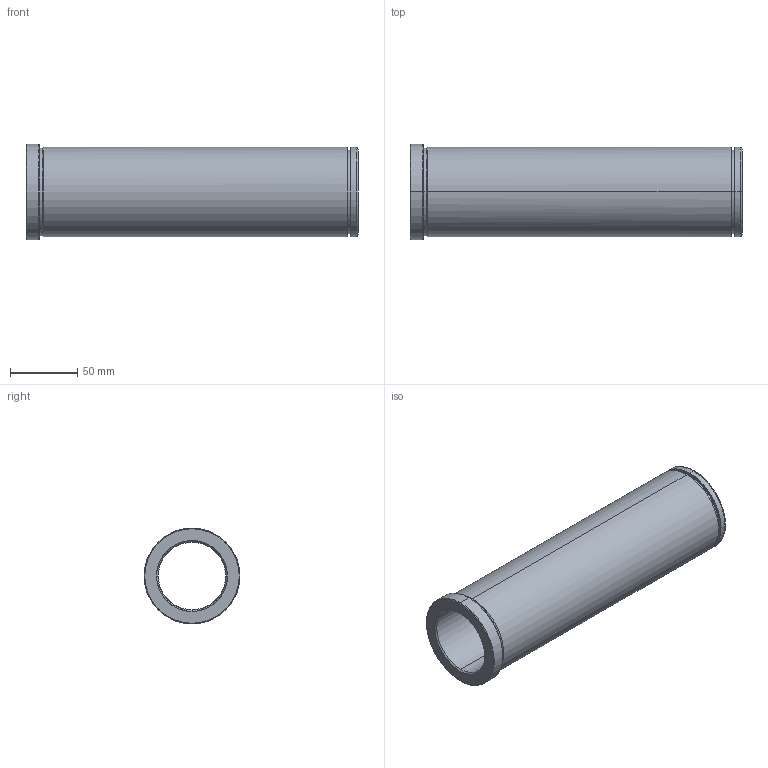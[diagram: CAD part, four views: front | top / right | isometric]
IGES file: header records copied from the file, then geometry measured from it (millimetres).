
Start section: START RECORD GO HERE.
Global section: file name: 553-50X246.igs; native system: DASSAULT SYSTEMES CATIA V5 R20 - www.3ds.com; preprocessor: CATIA Version 5 Release 20 ; author: Utente; organization: NB04-ASUS; date: 20210608.201115; units: millimetre
Bounding box: 246 x 71 x 71 mm (x, y, z)
Surface area: 94398.8 mm2 (no closed solid volume)
Topology: 0 solids, 0 shells, 32 faces, 204 edges, 204 vertices
Faces by surface type: revolution 26, plane 6
